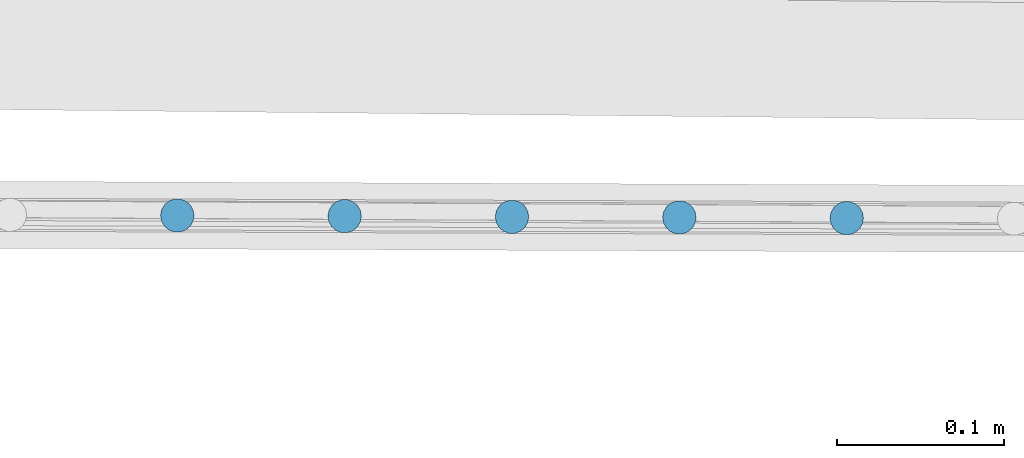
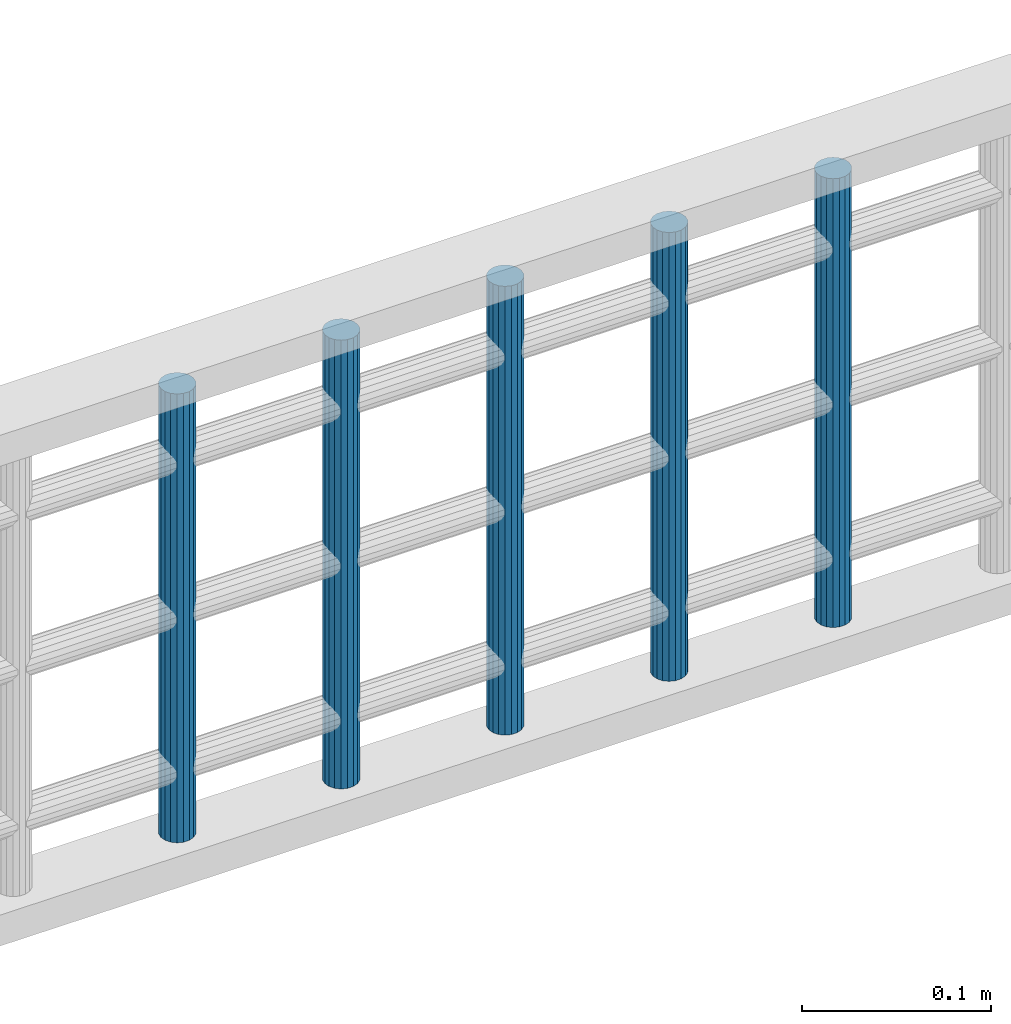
# One storey, part 18 of 39: 5 members, 1 element without a shape of its own.
"""IFC2X3 building model written with IfcOpenShell, lengths in centimetres."""

from ifc_helpers import new_model, entity, si_unit, converted_unit, direction, frame, origin, origin_with_axes, place, context, subcontext, project, spatial, faceted_brep, material, type_object, element, aggregate, save


model = new_model("IFC2X3")

# Units and contexts
model_context = context("Model", 3, precision=0.0001, world=origin(), true_north=direction((0.225632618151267, 0.974212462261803, 0.0)))
body_context = subcontext(model_context, "Body", "Model", "MODEL_VIEW")
ifc_project = project(units=[si_unit("LENGTHUNIT", "METRE", prefix="CENTI"), si_unit("AREAUNIT", "SQUARE_METRE", prefix="CENTI"), si_unit("VOLUMEUNIT", "CUBIC_METRE", prefix="CENTI"), converted_unit("PLANEANGLEUNIT", "DEGREE", entity("IfcRatioMeasure", 0.0174532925), si_unit("PLANEANGLEUNIT", "RADIAN"), dimensions=[0, 0, 0, 0, 0, 0, 0])], contexts=[model_context])

# Site, building, storey
site_placement = place(None, origin_with_axes())
site = spatial("IfcSite", under=ifc_project, at=site_placement, Name="Default Site", CompositionType="ELEMENT")
building_placement = place(site_placement, origin_with_axes())
building = spatial("IfcBuilding", under=site, at=building_placement, Name="Default Building", CompositionType="ELEMENT")
storey_placement = place(building_placement, frame((0.0, 0.0, 1088.91037418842), z_axis=(0.0, 0.0, 1.0), x_axis=(1.0, 0.0, 0.0)))
storey = spatial("IfcBuildingStorey", under=building, at=storey_placement, Name="Mezzanine", CompositionType="ELEMENT", Elevation=1088.91037418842)

# Assembly, members
building_element_proxy_type = type_object("IfcBuildingElementProxyType", Name="Type Object", PredefinedType="NOTDEFINED")
assembly_placement = place(storey_placement, frame((1135.88365779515, -230.612962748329, -220.0), z_axis=(0.0, 0.0, 1.0), x_axis=(0.999992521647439, -0.00386738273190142, 0.0)))
assembly = element("IfcElementAssembly", 1, at=assembly_placement, inside=storey, type_object=building_element_proxy_type, Name="Panneau 1519653", ObjectType="Precast panel", PredefinedType="USERDEFINED")
ifc_material = material(Name="Blanc trafic")
member_1_placement = place(assembly_placement, frame((38.439694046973, 0.342020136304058, 31.0000002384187), z_axis=(0.0, 0.0, 0.999999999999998), x_axis=(0.500002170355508, -0.866024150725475, 0.0)))
member_1 = element("IfcMember", 2, at=member_1_placement, material=ifc_material, Name="4294967245", context=body_context, shape_type="Brep", body=[
    faceted_brep([(2.16493489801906e-13, 4.27435864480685e-13, 1.77635683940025e-13), (-0.347296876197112, 3.88578058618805e-13, 1.77635683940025e-13), (-0.673649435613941, -0.118782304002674, 1.77635683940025e-13), (-0.939693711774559, -0.342018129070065, 1.77635683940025e-13), (-1.1133436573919, -0.642786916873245, 1.77635683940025e-13), (-1.17365112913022, -0.98480562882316, 1.77635683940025e-13), (-1.11334505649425, -1.32682669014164, 1.77635683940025e-13), (-0.939698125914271, -1.62759547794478, 1.77635683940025e-13), (-0.673653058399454, -1.85083187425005, 1.77635683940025e-13), (-0.34730272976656, -1.96961709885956, 1.77635683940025e-13), (-5.853569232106e-06, -1.96961709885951, 1.77635683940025e-13), (0.326346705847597, -1.85083479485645, 1.77635683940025e-13), (0.592390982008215, -1.62759896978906, 1.77635683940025e-13), (0.766040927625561, -1.32683018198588, 1.77635683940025e-13), (0.826348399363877, -0.984811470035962, 1.77635683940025e-13), (0.766042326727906, -0.642790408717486, 1.77635683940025e-13), (0.592395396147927, -0.342021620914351, 1.77635683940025e-13), (0.32635032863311, -0.118785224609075, 1.77635683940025e-13), (0.32635032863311, -0.118785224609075, -29.0000002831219), (0.592395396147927, -0.342021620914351, -29.0000002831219), (0.766042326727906, -0.642790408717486, -29.0000002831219), (0.826348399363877, -0.984811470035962, -29.0000002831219), (0.766040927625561, -1.32683018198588, -29.0000002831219), (0.592390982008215, -1.62759896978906, -29.0000002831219), (0.326346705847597, -1.85083479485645, -29.0000002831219), (-5.853569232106e-06, -1.96961709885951, -29.0000002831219), (-0.34730272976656, -1.96961709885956, -29.0000002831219), (-0.673653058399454, -1.85083187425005, -29.0000002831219), (-0.939698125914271, -1.62759547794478, -29.0000002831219), (-1.11334505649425, -1.32682669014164, -29.0000002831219), (-1.17365112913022, -0.98480562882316, -29.0000002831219), (-1.1133436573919, -0.642786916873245, -29.0000002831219), (-0.939693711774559, -0.342018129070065, -29.0000002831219), (-0.673649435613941, -0.118782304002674, -29.0000002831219), (-0.347296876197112, 3.88578058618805e-13, -29.0000002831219), (2.16493489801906e-13, 4.27435864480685e-13, -29.0000002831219), (0.592393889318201, -0.342023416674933, 1.77635683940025e-13), (0.592393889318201, -0.342023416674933, -29.0000002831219), (0.76604307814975, -0.642789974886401, 1.77635683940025e-13), (0.76604307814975, -0.642789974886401, -29.0000002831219), (0.826348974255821, -0.984811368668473, 1.77635683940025e-13), (0.826348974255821, -0.984811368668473, -29.0000002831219), (0.766040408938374, -1.326830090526, 1.77635683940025e-13), (0.766040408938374, -1.326830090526, -29.0000002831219), (0.592390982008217, -1.62759896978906, 1.77635683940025e-13), (0.592390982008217, -1.62759896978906, -29.0000002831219), (0.326347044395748, -1.85083519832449, 1.77635683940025e-13), (0.326347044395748, -1.85083519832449, -29.0000002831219), (-6.05322563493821e-06, -1.96961655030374, 1.77635683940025e-13), (-6.05322563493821e-06, -1.96961655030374, -29.0000002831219), (-0.347302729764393, -1.9696162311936, 1.77635683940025e-13), (-0.347302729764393, -1.9696162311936, -29.0000002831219), (-0.673653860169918, -1.85083407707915, 1.77635683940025e-13), (-0.673653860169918, -1.85083407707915, -29.0000002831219), (-0.939696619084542, -1.62759368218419, 1.77635683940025e-13), (-0.939696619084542, -1.62759368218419, -29.0000002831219), (-1.1133458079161, -1.32682712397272, 1.77635683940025e-13), (-1.1133458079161, -1.32682712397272, -29.0000002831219), (-1.17365170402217, -0.984805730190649, 1.77635683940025e-13), (-1.17365170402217, -0.984805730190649, -29.0000002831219), (-1.11334313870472, -0.642787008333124, 1.77635683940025e-13), (-1.11334313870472, -0.642787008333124, -29.0000002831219), (-0.93969371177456, -0.342018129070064, 1.77635683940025e-13), (-0.93969371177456, -0.342018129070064, -29.0000002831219), (-0.673649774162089, -0.118781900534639, 1.77635683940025e-13), (-0.673649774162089, -0.118781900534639, -29.0000002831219), (-0.347296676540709, -5.4855538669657e-07, 1.77635683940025e-13), (-0.347296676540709, -5.4855538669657e-07, -29.0000002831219), (-1.95123164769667e-12, -8.6766552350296e-07, 1.77635683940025e-13), (-1.95123164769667e-12, -8.6766552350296e-07, -29.0000002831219), (0.326351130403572, -0.118783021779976, 1.77635683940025e-13), (0.326351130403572, -0.118783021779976, -29.0000002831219)], [[[0, 1, 2, 3, 4, 5, 6, 7, 8, 9, 10, 11, 12, 13, 14, 15, 16, 17]], [[18, 19, 20, 21, 22, 23, 24, 25, 26, 27, 28, 29, 30, 31, 32, 33, 34, 35]], [[17, 36, 37, 18]], [[16, 38, 39, 19]], [[15, 40, 41, 20]], [[14, 42, 43, 21]], [[13, 44, 45, 22]], [[12, 46, 47, 23]], [[11, 48, 49, 24]], [[10, 50, 51, 25]], [[9, 52, 53, 26]], [[8, 54, 55, 27]], [[7, 56, 57, 28]], [[6, 58, 59, 29]], [[5, 60, 61, 30]], [[4, 62, 63, 31]], [[3, 64, 65, 32]], [[2, 66, 67, 33]], [[1, 68, 69, 34]], [[0, 70, 71, 35]]]),
])
member_2_placement = place(assembly_placement, frame((48.4396934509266, 0.342020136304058, 31.0000002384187), z_axis=(0.0, 0.0, 0.999999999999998), x_axis=(0.500002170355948, -0.866024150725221, 0.0)))
member_2 = element("IfcMember", 3, at=member_2_placement, material=ifc_material, Name="4294967244", context=body_context, shape_type="Brep", body=[
    faceted_brep([(7.7715611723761e-14, -1.66533453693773e-14, -5.55111512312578e-15), (-0.347296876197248, 1.22124532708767e-13, -5.55111512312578e-15), (-0.673649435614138, -0.118782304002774, -5.55111512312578e-15), (-0.939693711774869, -0.342018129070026, -5.55111512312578e-15), (-1.11334216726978, -0.642784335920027, -5.55111512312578e-15), (-1.17365112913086, -0.984805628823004, -5.55111512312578e-15), (-1.11334505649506, -1.32682669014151, -5.55111512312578e-15), (-0.939696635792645, -1.62759289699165, -5.55111512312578e-15), (-0.673653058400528, -1.85083187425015, -5.55111512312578e-15), (-0.347301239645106, -1.96961451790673, -5.55111512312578e-15), (-5.8535703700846e-06, -1.96961709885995, -5.55111512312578e-15), (0.326346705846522, -1.85083479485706, -5.55111512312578e-15), (0.592392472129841, -1.62759638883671, -5.55111512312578e-15), (0.76604092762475, -1.32683018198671, -5.55111512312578e-15), (0.826348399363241, -0.984811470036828, -5.55111512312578e-15), (0.766042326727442, -0.642790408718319, -5.55111512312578e-15), (0.592395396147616, -0.342021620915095, -5.55111512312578e-15), (0.326351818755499, -0.11878264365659, -5.55111512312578e-15), (0.326351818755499, -0.11878264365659, -29.0000002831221), (0.592395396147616, -0.342021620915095, -29.0000002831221), (0.766042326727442, -0.642790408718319, -29.0000002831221), (0.826348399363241, -0.984811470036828, -29.0000002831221), (0.76604092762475, -1.32683018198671, -29.0000002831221), (0.592392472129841, -1.62759638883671, -29.0000002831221), (0.326346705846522, -1.85083479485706, -29.0000002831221), (-5.8535703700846e-06, -1.96961709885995, -29.0000002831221), (-0.347301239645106, -1.96961451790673, -29.0000002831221), (-0.673653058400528, -1.85083187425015, -29.0000002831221), (-0.939696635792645, -1.62759289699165, -29.0000002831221), (-1.11334505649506, -1.32682669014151, -29.0000002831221), (-1.17365112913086, -0.984805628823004, -29.0000002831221), (-1.11334216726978, -0.642784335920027, -29.0000002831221), (-0.939693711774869, -0.342018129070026, -29.0000002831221), (-0.673649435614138, -0.118782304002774, -29.0000002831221), (-0.347296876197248, 1.22124532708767e-13, -29.0000002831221), (7.7715611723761e-14, -1.66533453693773e-14, -29.0000002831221), (0.592395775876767, -0.342021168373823, -5.55111512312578e-15), (0.592395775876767, -0.342021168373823, -29.0000002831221), (0.766043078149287, -0.642789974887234, -5.55111512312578e-15), (0.766043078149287, -0.642789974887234, -29.0000002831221), (0.826348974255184, -0.984811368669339, -5.55111512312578e-15), (0.826348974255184, -0.984811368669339, -29.0000002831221), (0.766040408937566, -1.32683009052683, -5.55111512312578e-15), (0.766040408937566, -1.32683009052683, -29.0000002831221), (0.59239247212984, -1.62759638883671, -5.55111512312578e-15), (0.59239247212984, -1.62759638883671, -29.0000002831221), (0.326346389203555, -1.85083441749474, -5.55111512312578e-15), (0.326346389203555, -1.85083441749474, -29.0000002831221), (-6.0532267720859e-06, -1.96961655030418, -5.55111512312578e-15), (-6.0532267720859e-06, -1.96961655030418, -29.0000002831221), (-0.347301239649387, -1.96961623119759, -5.55111512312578e-15), (-0.347301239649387, -1.96961623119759, -29.0000002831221), (-0.673652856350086, -1.85083131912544, -5.55111512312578e-15), (-0.673652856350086, -1.85083131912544, -29.0000002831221), (-0.939697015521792, -1.62759334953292, -5.55111512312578e-15), (-0.939697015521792, -1.62759334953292, -29.0000002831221), (-1.11334357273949, -1.32682583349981, -5.55111512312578e-15), (-1.11334357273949, -1.32682583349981, -29.0000002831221), (-1.1736517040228, -0.984805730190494, -5.55111512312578e-15), (-1.1736517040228, -0.984805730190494, -29.0000002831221), (-1.11334265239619, -0.642784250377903, -5.55111512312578e-15), (-1.11334265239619, -0.642784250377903, -29.0000002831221), (-0.939693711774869, -0.342018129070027, -5.55111512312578e-15), (-0.939693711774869, -0.342018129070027, -29.0000002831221), (-0.673649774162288, -0.118781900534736, -5.55111512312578e-15), (-0.673649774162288, -0.118781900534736, -29.0000002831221), (-0.347296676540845, -5.4855565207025e-07, -5.55111512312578e-15), (-0.347296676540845, -5.4855565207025e-07, -29.0000002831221), (-2.09000996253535e-12, -8.67665966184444e-07, -5.55111512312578e-15), (-2.09000996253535e-12, -8.67665966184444e-07, -29.0000002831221), (0.326351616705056, -0.118783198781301, -5.55111512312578e-15), (0.326351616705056, -0.118783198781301, -29.0000002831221)], [[[0, 1, 2, 3, 4, 5, 6, 7, 8, 9, 10, 11, 12, 13, 14, 15, 16, 17]], [[18, 19, 20, 21, 22, 23, 24, 25, 26, 27, 28, 29, 30, 31, 32, 33, 34, 35]], [[17, 36, 37, 18]], [[16, 38, 39, 19]], [[15, 40, 41, 20]], [[14, 42, 43, 21]], [[13, 44, 45, 22]], [[12, 46, 47, 23]], [[11, 48, 49, 24]], [[10, 50, 51, 25]], [[9, 52, 53, 26]], [[8, 54, 55, 27]], [[7, 56, 57, 28]], [[6, 58, 59, 29]], [[5, 60, 61, 30]], [[4, 62, 63, 31]], [[3, 64, 65, 32]], [[2, 66, 67, 33]], [[1, 68, 69, 34]], [[0, 70, 71, 35]]]),
])
member_3_placement = place(assembly_placement, frame((58.4396898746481, 0.342020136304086, 31.0000002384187), z_axis=(0.0, 0.0, 0.999999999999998), x_axis=(0.499995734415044, -0.866027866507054, 0.0)))
member_3 = element("IfcMember", 4, at=member_3_placement, material=ifc_material, Name="4294967243", context=body_context, shape_type="Brep", body=[
    faceted_brep([(2.55351295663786e-13, 9.99200722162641e-14, 1.83186799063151e-13), (-0.347295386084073, 1.4432899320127e-13, 1.83186799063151e-13), (-0.673647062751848, -0.11878472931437, 1.83186799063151e-13), (-0.939688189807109, -0.342019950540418, 1.83186799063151e-13), (-1.11333590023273, -0.642790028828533, 1.83186799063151e-13), (-1.1736423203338, -0.984811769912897, 1.83186799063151e-13), (-1.11333370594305, -1.3268323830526, 1.83186799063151e-13), (-0.939683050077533, -1.62759729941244, 1.83186799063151e-13), (-0.673637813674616, -1.85083429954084, 1.83186799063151e-13), (-0.34728511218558, -1.96961451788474, 1.83186799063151e-13), (1.02738987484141e-05, -1.96961451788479, 1.83186799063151e-13), (0.326361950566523, -1.85082978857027, 1.83186799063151e-13), (0.592406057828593, -1.62758940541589, 1.83186799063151e-13), (0.766053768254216, -1.32681932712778, 1.83186799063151e-13), (0.826357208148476, -0.984802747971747, 1.83186799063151e-13), (0.766048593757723, -0.642782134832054, 1.83186799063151e-13), (0.592397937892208, -0.342017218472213, 1.83186799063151e-13), (0.326352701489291, -0.118780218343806, 1.83186799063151e-13), (0.326352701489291, -0.118780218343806, -29.0000002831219), (0.592397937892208, -0.342017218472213, -29.0000002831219), (0.766048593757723, -0.642782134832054, -29.0000002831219), (0.826357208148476, -0.984802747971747, -29.0000002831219), (0.766053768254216, -1.32681932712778, -29.0000002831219), (0.592406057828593, -1.62758940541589, -29.0000002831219), (0.326361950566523, -1.85082978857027, -29.0000002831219), (1.02738987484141e-05, -1.96961451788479, -29.0000002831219), (-0.34728511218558, -1.96961451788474, -29.0000002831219), (-0.673637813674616, -1.85083429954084, -29.0000002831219), (-0.939683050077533, -1.62759729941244, -29.0000002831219), (-1.11333370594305, -1.3268323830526, -29.0000002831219), (-1.1736423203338, -0.984811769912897, -29.0000002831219), (-1.11333590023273, -0.642790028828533, -29.0000002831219), (-0.939688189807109, -0.342019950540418, -29.0000002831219), (-0.673647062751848, -0.11878472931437, -29.0000002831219), (-0.347295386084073, 1.4432899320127e-13, -29.0000002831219), (2.55351295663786e-13, 9.99200722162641e-14, -29.0000002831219), (0.592398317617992, -0.342016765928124, 1.83186799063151e-13), (0.592398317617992, -0.342016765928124, -29.0000002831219), (0.766047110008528, -0.64278299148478, 1.83186799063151e-13), (0.766047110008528, -0.64278299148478, -29.0000002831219), (0.826357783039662, -0.984802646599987, 1.83186799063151e-13), (0.826357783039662, -0.984802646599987, -29.0000002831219), (0.766052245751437, -1.32681905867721, 1.83186799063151e-13), (0.766052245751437, -1.32681905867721, -29.0000002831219), (0.326361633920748, -1.8508294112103, 1.83186799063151e-13), (0.326361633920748, -1.8508294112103, -29.0000002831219), (1.00742382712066e-05, -1.9696139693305, 1.83186799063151e-13), (1.00742382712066e-05, -1.9696139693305, -29.0000002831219), (-0.347285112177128, -1.9696162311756, 1.83186799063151e-13), (-0.347285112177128, -1.9696162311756, -29.0000002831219), (-0.673637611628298, -1.85083374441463, 1.83186799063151e-13), (-0.673637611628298, -1.85083374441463, -29.0000002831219), (-0.939683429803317, -1.62759775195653, 1.83186799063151e-13), (-0.939683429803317, -1.62759775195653, -29.0000002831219), (-1.11333222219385, -1.32683152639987, 1.83186799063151e-13), (-1.11333222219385, -1.32683152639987, -29.0000002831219), (-1.17364289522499, -0.984811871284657, 1.83186799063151e-13), (-1.17364289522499, -0.984811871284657, -29.0000002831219), (-1.11333638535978, -0.642789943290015, 1.83186799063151e-13), (-1.11333638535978, -0.642789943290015, -29.0000002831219), (-0.939688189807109, -0.342019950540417, 1.83186799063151e-13), (-0.939688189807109, -0.342019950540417, -29.0000002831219), (-0.673648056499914, -0.11878354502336, 1.83186799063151e-13), (-0.673648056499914, -0.11878354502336, -29.0000002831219), (-0.347295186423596, -5.48554140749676e-07, 1.83186799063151e-13), (-0.347295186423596, -5.48554140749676e-07, -29.0000002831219), (-8.19672036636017e-12, 1.7132909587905e-06, 1.83186799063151e-13), (-8.19672036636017e-12, 1.7132909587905e-06, -29.0000002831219), (0.326352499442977, -0.118780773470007, 1.83186799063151e-13), (0.326352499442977, -0.118780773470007, -29.0000002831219)], [[[0, 1, 2, 3, 4, 5, 6, 7, 8, 9, 10, 11, 12, 13, 14, 15, 16, 17]], [[18, 19, 20, 21, 22, 23, 24, 25, 26, 27, 28, 29, 30, 31, 32, 33, 34, 35]], [[17, 36, 37, 18]], [[16, 38, 39, 19]], [[15, 40, 41, 20]], [[14, 42, 43, 21]], [[13, 12, 23, 22]], [[12, 44, 45, 23]], [[11, 46, 47, 24]], [[10, 48, 49, 25]], [[9, 50, 51, 26]], [[8, 52, 53, 27]], [[7, 54, 55, 28]], [[6, 56, 57, 29]], [[5, 58, 59, 30]], [[4, 60, 61, 31]], [[3, 62, 63, 32]], [[2, 64, 65, 33]], [[1, 66, 67, 34]], [[0, 68, 69, 35]]]),
])
member_4_placement = place(assembly_placement, frame((68.4396922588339, 0.342020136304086, 31.0000002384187), z_axis=(0.0, 0.0, 0.999999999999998), x_axis=(0.499995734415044, -0.866027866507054, 0.0)))
member_4 = element("IfcMember", 5, at=member_4_placement, material=ifc_material, Name="4294967242", context=body_context, shape_type="Brep", body=[
    faceted_brep([(8.88178419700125e-14, 4.44089209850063e-14, 1.83186799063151e-13), (-0.34729538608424, 9.99200722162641e-14, 1.83186799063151e-13), (-0.673647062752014, -0.118784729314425, 1.83186799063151e-13), (-0.93969117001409, -0.342025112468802, 1.83186799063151e-13), (-1.11333888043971, -0.642795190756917, 1.83186799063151e-13), (-1.17364232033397, -0.984811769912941, 1.83186799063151e-13), (-1.11333370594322, -1.32683238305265, 1.83186799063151e-13), (-0.9396830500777, -1.62759729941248, 1.83186799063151e-13), (-0.673637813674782, -1.85083429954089, 1.83186799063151e-13), (-0.347285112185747, -1.96961451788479, 1.83186799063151e-13), (1.02738985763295e-05, -1.96961451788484, 1.83186799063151e-13), (0.326361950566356, -1.85082978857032, 1.83186799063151e-13), (0.592403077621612, -1.62759456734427, 1.83186799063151e-13), (0.766050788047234, -1.32682448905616, 1.83186799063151e-13), (0.826357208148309, -0.984802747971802, 1.83186799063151e-13), (0.766048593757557, -0.642782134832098, 1.83186799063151e-13), (0.592397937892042, -0.342017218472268, 1.83186799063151e-13), (0.326352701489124, -0.11878021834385, 1.83186799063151e-13), (0.326352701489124, -0.11878021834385, -29.0000002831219), (0.592397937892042, -0.342017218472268, -29.0000002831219), (0.766048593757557, -0.642782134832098, -29.0000002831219), (0.826357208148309, -0.984802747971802, -29.0000002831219), (0.766050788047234, -1.32682448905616, -29.0000002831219), (0.592403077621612, -1.62759456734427, -29.0000002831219), (0.326361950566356, -1.85082978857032, -29.0000002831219), (1.02738985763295e-05, -1.96961451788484, -29.0000002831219), (-0.347285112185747, -1.96961451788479, -29.0000002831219), (-0.673637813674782, -1.85083429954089, -29.0000002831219), (-0.9396830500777, -1.62759729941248, -29.0000002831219), (-1.11333370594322, -1.32683238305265, -29.0000002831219), (-1.17364232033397, -0.984811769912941, -29.0000002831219), (-1.11333888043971, -0.642795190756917, -29.0000002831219), (-0.93969117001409, -0.342025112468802, -29.0000002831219), (-0.673647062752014, -0.118784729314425, -29.0000002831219), (-0.34729538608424, 9.99200722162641e-14, -29.0000002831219), (8.88178419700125e-14, 4.44089209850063e-14, -29.0000002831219), (0.592398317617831, -0.342016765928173, 1.83186799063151e-13), (0.592398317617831, -0.342016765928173, -29.0000002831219), (0.766047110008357, -0.642782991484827, 1.83186799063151e-13), (0.766047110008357, -0.642782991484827, -29.0000002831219), (0.826357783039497, -0.984802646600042, 1.83186799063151e-13), (0.826357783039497, -0.984802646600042, -29.0000002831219), (0.766051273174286, -1.32682457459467, 1.83186799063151e-13), (0.766051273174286, -1.32682457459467, -29.0000002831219), (0.32636294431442, -1.85083097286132, 1.83186799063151e-13), (0.32636294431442, -1.85083097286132, -29.0000002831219), (1.00742380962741e-05, -1.96961396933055, 1.83186799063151e-13), (1.00742380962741e-05, -1.96961396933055, -29.0000002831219), (-0.347285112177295, -1.96961623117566, 1.83186799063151e-13), (-0.347285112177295, -1.96961623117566, -29.0000002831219), (-0.673637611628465, -1.85083374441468, 1.83186799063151e-13), (-0.673637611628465, -1.85083374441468, -29.0000002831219), (-0.939683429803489, -1.62759775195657, 1.83186799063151e-13), (-0.939683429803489, -1.62759775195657, -29.0000002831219), (-1.11333222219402, -1.32683152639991, 1.83186799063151e-13), (-1.11333222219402, -1.32683152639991, -29.0000002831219), (-1.17364289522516, -0.984811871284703, 1.83186799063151e-13), (-1.17364289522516, -0.984811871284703, -29.0000002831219), (-1.11333735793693, -0.642795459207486, 1.83186799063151e-13), (-1.11333735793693, -0.642795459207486, -29.0000002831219), (-0.673646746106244, -0.118785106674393, 1.83186799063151e-13), (-0.673646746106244, -0.118785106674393, -29.0000002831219), (-0.347295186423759, -5.48554194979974e-07, 1.83186799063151e-13), (-0.347295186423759, -5.48554194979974e-07, -29.0000002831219), (-8.36325387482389e-12, 1.71329091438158e-06, 1.83186799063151e-13), (-8.36325387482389e-12, 1.71329091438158e-06, -29.0000002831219), (0.326352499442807, -0.118780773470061, 1.83186799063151e-13), (0.326352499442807, -0.118780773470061, -29.0000002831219)], [[[0, 1, 2, 3, 4, 5, 6, 7, 8, 9, 10, 11, 12, 13, 14, 15, 16, 17]], [[18, 19, 20, 21, 22, 23, 24, 25, 26, 27, 28, 29, 30, 31, 32, 33, 34, 35]], [[17, 36, 37, 18]], [[16, 38, 39, 19]], [[15, 40, 41, 20]], [[14, 42, 43, 21]], [[13, 12, 23, 22]], [[12, 44, 45, 23]], [[11, 46, 47, 24]], [[10, 48, 49, 25]], [[9, 50, 51, 26]], [[8, 52, 53, 27]], [[7, 54, 55, 28]], [[6, 56, 57, 29]], [[5, 58, 59, 30]], [[4, 3, 32, 31]], [[3, 60, 61, 32]], [[2, 62, 63, 33]], [[1, 64, 65, 34]], [[0, 66, 67, 35]]]),
])
member_5_placement = place(assembly_placement, frame((78.4396946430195, 0.342020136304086, 31.0000002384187), z_axis=(0.0, 0.0, 0.999999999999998), x_axis=(0.500008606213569, -0.8660204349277, 0.0)))
member_5 = element("IfcMember", 6, at=member_5_placement, material=ifc_material, Name="4294967241", context=body_context, shape_type="Brep", body=[
    faceted_brep([(1.94289029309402e-13, 3.33066907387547e-14, 5.55111512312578e-15), (-0.347298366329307, 8.88178419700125e-14, 5.55111512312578e-15), (-0.673651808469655, -0.118779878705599, 5.55111512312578e-15), (-0.939696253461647, -0.342011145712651, 5.55111512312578e-15), (-1.1133484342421, -0.642778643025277, 5.55111512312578e-15), (-1.17365993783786, -0.984799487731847, 5.55111512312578e-15), (-1.11335640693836, -1.32682099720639, 5.55111512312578e-15), (-0.939710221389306, -1.62758849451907, 5.55111512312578e-15), (-0.673668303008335, -1.85082944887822, 5.55111512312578e-15), (-0.347317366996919, -1.96961451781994, 5.55111512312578e-15), (-2.19809509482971e-05, -1.96961967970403, 5.55111512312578e-15), (0.3263314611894, -1.85083980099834, 5.55111512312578e-15), (0.592378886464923, -1.62760337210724, 5.55111512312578e-15), (0.766031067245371, -1.32683587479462, 5.55111512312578e-15), (0.826339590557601, -0.984820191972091, 5.55111512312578e-15), (0.766036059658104, -0.642798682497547, 5.55111512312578e-15), (0.592392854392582, -0.342026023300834, 5.55111512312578e-15), (0.32635093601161, -0.118785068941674, 5.55111512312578e-15), (0.32635093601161, -0.118785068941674, -29.0000002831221), (0.592392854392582, -0.342026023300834, -29.0000002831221), (0.766036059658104, -0.642798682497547, -29.0000002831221), (0.826339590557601, -0.984820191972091, -29.0000002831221), (0.766031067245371, -1.32683587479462, -29.0000002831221), (0.592378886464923, -1.62760337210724, -29.0000002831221), (0.3263314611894, -1.85083980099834, -29.0000002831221), (-2.19809509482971e-05, -1.96961967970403, -29.0000002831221), (-0.347317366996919, -1.96961451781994, -29.0000002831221), (-0.673668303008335, -1.85082944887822, -29.0000002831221), (-0.939710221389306, -1.62758849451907, -29.0000002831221), (-1.11335640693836, -1.32682099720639, -29.0000002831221), (-1.17365993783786, -0.984799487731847, -29.0000002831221), (-1.1133484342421, -0.642778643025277, -29.0000002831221), (-0.939696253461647, -0.342011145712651, -29.0000002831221), (-0.673651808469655, -0.118779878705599, -29.0000002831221), (-0.347298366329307, 8.88178419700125e-14, -29.0000002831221), (1.94289029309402e-13, 3.33066907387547e-14, -29.0000002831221), (0.592393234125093, -0.342025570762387, 5.55111512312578e-15), (0.592393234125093, -0.342025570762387, -29.0000002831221), (0.766039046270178, -0.642796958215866, 5.55111512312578e-15), (0.766039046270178, -0.642796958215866, -29.0000002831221), (0.826340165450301, -0.984820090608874, 5.55111512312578e-15), (0.826340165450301, -0.984820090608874, -29.0000002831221), (0.766029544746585, -1.32683560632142, 5.55111512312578e-15), (0.766029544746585, -1.32683560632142, -29.0000002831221), (0.59237888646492, -1.62760337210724, 5.55111512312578e-15), (0.59237888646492, -1.62760337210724, -29.0000002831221), (0.326331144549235, -1.85083942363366, 5.55111512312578e-15), (0.326331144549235, -1.85083942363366, -29.0000002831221), (-2.21806032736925e-05, -1.96961913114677, 5.55111512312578e-15), (-2.21806032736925e-05, -1.96961913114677, -29.0000002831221), (-0.347317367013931, -1.96961623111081, 5.55111512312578e-15), (-0.347317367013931, -1.96961623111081, -29.0000002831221), (-0.673668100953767, -1.85082889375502, 5.55111512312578e-15), (-0.673668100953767, -1.85082889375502, -29.0000002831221), (-0.939710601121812, -1.62758894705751, 5.55111512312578e-15), (-0.939710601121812, -1.62758894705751, -29.0000002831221), (-1.11335492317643, -1.32682014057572, 5.55111512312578e-15), (-1.11335492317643, -1.32682014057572, -29.0000002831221), (-1.17366051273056, -0.984799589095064, 5.55111512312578e-15), (-1.17366051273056, -0.984799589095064, -29.0000002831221), (-1.11334891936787, -0.642778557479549, 5.55111512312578e-15), (-1.11334891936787, -0.642778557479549, -29.0000002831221), (-0.939696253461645, -0.342011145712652, 5.55111512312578e-15), (-0.939696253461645, -0.342011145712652, -29.0000002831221), (-0.673652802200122, -0.118778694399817, 5.55111512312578e-15), (-0.673652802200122, -0.118778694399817, -29.0000002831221), (-0.347298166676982, -5.48557167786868e-07, 5.55111512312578e-15), (-0.347298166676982, -5.48557167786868e-07, -29.0000002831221), (-3.40500388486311e-11, -3.44862272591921e-06, 5.55111512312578e-15), (-3.40500388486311e-11, -3.44862272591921e-06, -29.0000002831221), (0.326350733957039, -0.11878562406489, 5.55111512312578e-15), (0.326350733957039, -0.11878562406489, -29.0000002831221)], [[[0, 1, 2, 3, 4, 5, 6, 7, 8, 9, 10, 11, 12, 13, 14, 15, 16, 17]], [[18, 19, 20, 21, 22, 23, 24, 25, 26, 27, 28, 29, 30, 31, 32, 33, 34, 35]], [[17, 36, 37, 18]], [[16, 38, 39, 19]], [[15, 40, 41, 20]], [[14, 42, 43, 21]], [[13, 44, 45, 22]], [[12, 46, 47, 23]], [[11, 48, 49, 24]], [[10, 50, 51, 25]], [[9, 52, 53, 26]], [[8, 54, 55, 27]], [[7, 56, 57, 28]], [[6, 58, 59, 29]], [[5, 60, 61, 30]], [[4, 62, 63, 31]], [[3, 64, 65, 32]], [[2, 66, 67, 33]], [[1, 68, 69, 34]], [[0, 70, 71, 35]]]),
])
aggregate(assembly, [member_1, member_2, member_3, member_4, member_5])

save(model, "model.ifc")
